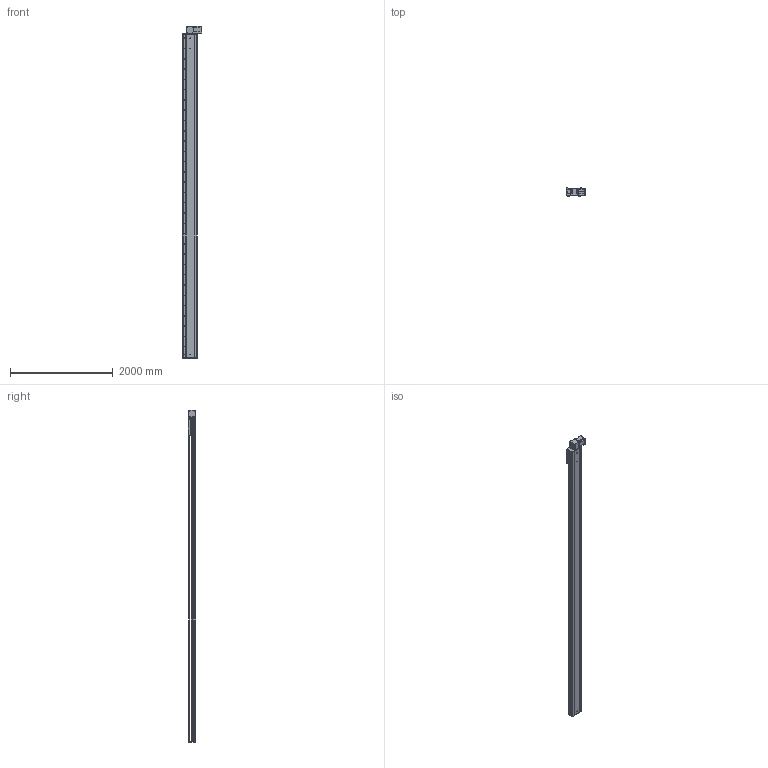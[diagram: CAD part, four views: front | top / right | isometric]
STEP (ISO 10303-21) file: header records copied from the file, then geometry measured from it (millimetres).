
FILE_DESCRIPTION (( 'STEP AP214' ), '1' );
FILE_NAME ('RTB28S-XX-5850-BL-M100-XX-C4.STEP', '2025-12-22T02:58:47', ( '' ), ( '' ), 'SwSTEP 2.0', 'SolidWorks 2018', '' );
FILE_SCHEMA (( 'AUTOMOTIVE_DESIGN' ));
Length unit declared in the file: millimetre
Products named in the file (4): RTB28S-GY-011^RTB28S-XX-XX-BL-M100-XX-C4; RTB28S-GY-008^RTB28S-XX-XX-BL-M100-XX-C4; RTB28S-GY-004^RTB28S-XX-XX-BL-M100-XX-C4; RTB28S-XX-5850-BL-M100-XX-C4
Assembly tree (3 placements, depth 2):
  RTB28S-XX-5850-BL-M100-XX-C4
    RTB28S-GY-011^RTB28S-XX-XX-BL-M100-XX-C4
    RTB28S-GY-004^RTB28S-XX-XX-BL-M100-XX-C4
    RTB28S-GY-008^RTB28S-XX-XX-BL-M100-XX-C4
Bounding box: 380.7 x 145 x 6457 mm (x, y, z)
Volume: 105994834.3 mm3; surface area: 9753191.7 mm2
Topology: 3 solids, 4 shells, 1028 faces, 2808 edges, 1808 vertices
Faces by surface type: cylinder 551, plane 393, cone 80, torus 4
Entity records: 41177 total; most frequent: CARTESIAN_POINT 8602, DIRECTION 6006, ORIENTED_EDGE 5552, EDGE_CURVE 2776, AXIS2_PLACEMENT_3D 2268, VERTEX_POINT 1808, VECTOR 1470, LINE 1470
